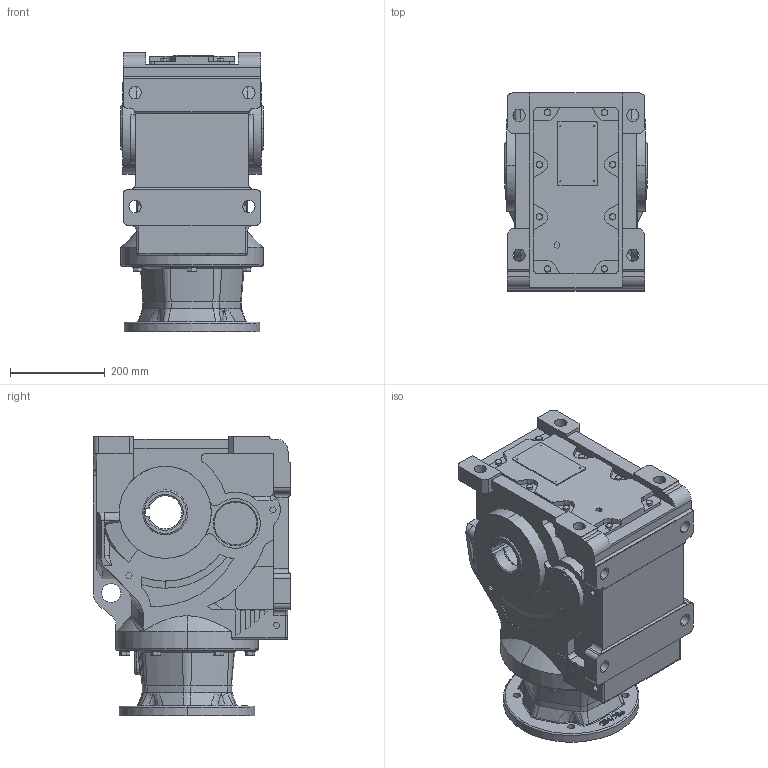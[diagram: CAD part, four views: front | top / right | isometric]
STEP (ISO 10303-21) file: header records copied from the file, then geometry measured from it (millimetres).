
FILE_DESCRIPTION (( 'STEP AP203' ), '1' );
FILE_NAME ('KHN97-284-6TC.STEP', '2022-04-08T05:36:45', ( 'user1' ), ( '' ), 'SwSTEP 2.0', 'SolidWorks 2012', '' );
FILE_SCHEMA (( 'CONFIG_CONTROL_DESIGN' ));
Length unit declared in the file: millimetre
Products named in the file (1): KHN97-284-6TC
Bounding box: 300 x 417 x 588.5 mm (x, y, z)
Volume: 43781694 mm3; surface area: 1249590 mm2
Topology: 1 solids, 1 shells, 1094 faces, 2883 edges, 1858 vertices
Faces by surface type: plane 523, cylinder 281, bspline 166, cone 102, torus 20, sphere 2
Entity records: 43435 total; most frequent: CARTESIAN_POINT 17362, ORIENTED_EDGE 5742, DIRECTION 4892, EDGE_CURVE 2871, VERTEX_POINT 1858, AXIS2_PLACEMENT_3D 1653, LINE 1586, VECTOR 1586
